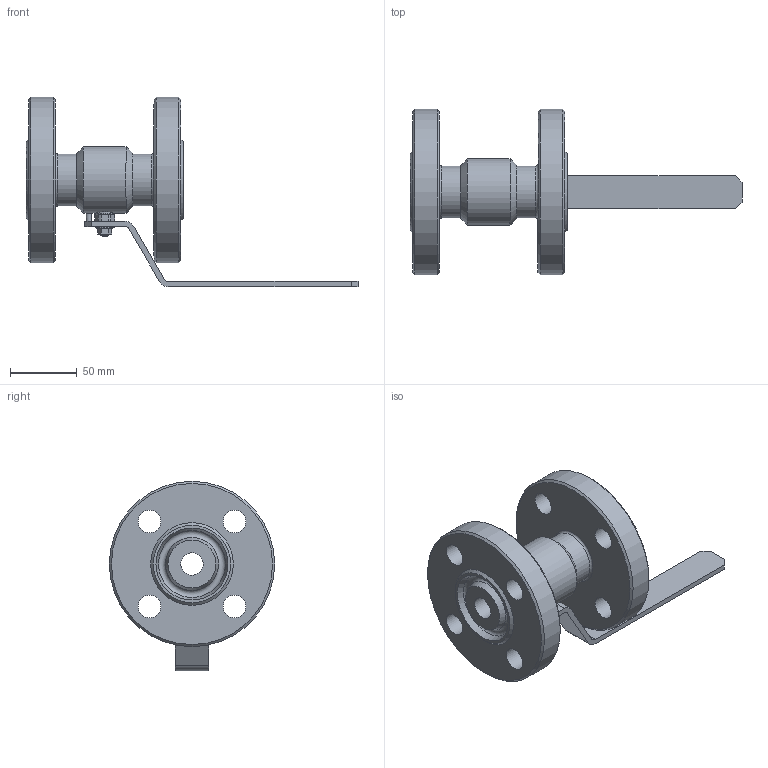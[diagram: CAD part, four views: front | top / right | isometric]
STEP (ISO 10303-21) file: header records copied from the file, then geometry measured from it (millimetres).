
FILE_DESCRIPTION(('STEP AP203'), '1');
FILE_NAME('ZARD 020.100.27.P.stp', '2013-12-05T11:13:22', ('User'), ('Computer'), 'ASCON STEP Converter 1.3', 'Kompas 3D', '');
FILE_SCHEMA(('CONFIG_CONTROL_DESIGN','SUPPORT_RESOURCE_SCHEMA'));
Length unit declared in the file: millimetre
Products named in the file (1): 140
Bounding box: 249 x 124 x 142 mm (x, y, z)
Volume: 549189.8 mm3; surface area: 100968.4 mm2
Topology: 1 solids, 3 shells, 163 faces, 378 edges, 232 vertices
Faces by surface type: plane 86, cylinder 42, cone 30, torus 4, bspline 1
Full cylindrical faces by diameter (mm): 4 x2, 6 x2, 8.673 x1, 9 x1, 10 x1, 10.1 x1, 14.2 x1, 15.8 x1, 16 x3, 17 x10, 31.4 x1, 39 x2, 50 x1, 124 x2
Entity records: 5667 total; most frequent: CARTESIAN_POINT 1749, DIRECTION 837, ORIENTED_EDGE 754, EDGE_CURVE 377, AXIS2_PLACEMENT_3D 322, VERTEX_POINT 232, EDGE_LOOP 205, LINE 193
